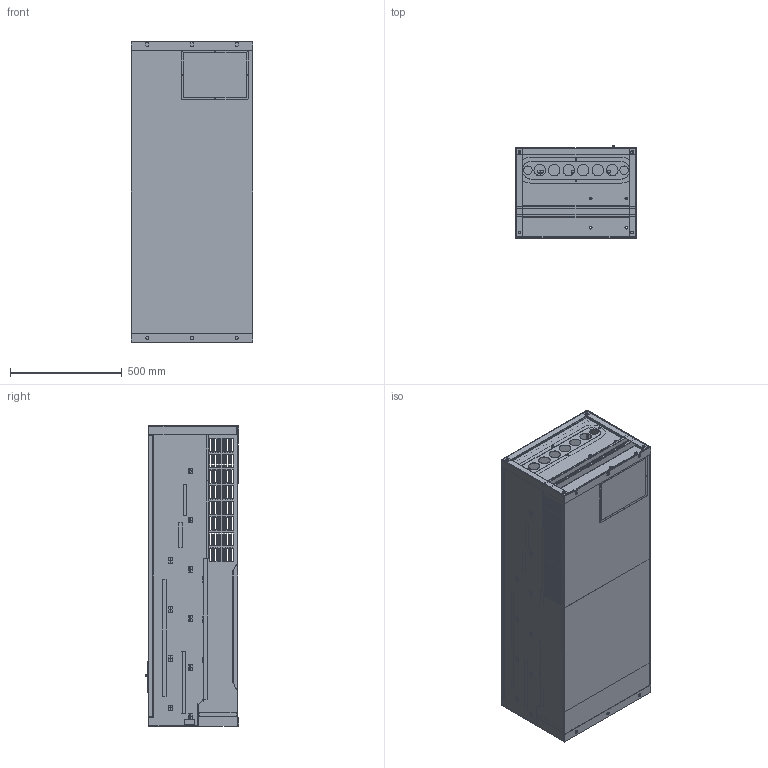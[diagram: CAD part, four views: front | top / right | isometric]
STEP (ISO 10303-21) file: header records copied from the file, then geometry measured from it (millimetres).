
FILE_DESCRIPTION (( 'STEP AP214' ), '1' );
FILE_NAME ('B-280K-H250K-380-D-0; B-315K-H280K-380-D-0; B-355K-H315K-380-D-0.STEP', '2022-06-04T08:25:30', ( '' ), ( '' ), 'SwSTEP 2.0', 'SolidWorks 2018', '' );
FILE_SCHEMA (( 'AUTOMOTIVE_DESIGN' ));
Length unit declared in the file: millimetre
Products named in the file (61): E102-400-328___ _____________ _____________^E102-400-328_ASM_E102-315-201_ASM_OptiCor B-280K-H250K-380-D-0-0; OptiCor B-315K-H280K-380-D-0-0; OpriCor B-355K-H315K-380-D-0-0(2)_B-280K-H250K-3~; CDI-9200-802_2___ _____________ _____________^CDI-9200_ASM_2_OptiCor B-280K-H250K-380-D-0-0; OptiCor B-315K-H280K-380-D-0-0; OpriCor B-355K-H315K-380-D-0-0(2)_B-280K-H250K-380-D-0; B-315K-H2~; E102-315-306___ _____________ _____________^E102-315-306_ASM_E102-315-201_ASM_OptiCor B-280K-H250K-380-D-0-0; OptiCor B-315K-H280K-380-D-0-0; OpriCor B-355K-H315K-380-D-0-0(2)_B-280K-H250K-3~; E180-018-305_ASM_4^E102-315-201_ASM_OptiCor B-280K-H250K-380-D-0-0; OptiCor B-315K-H280K-380-D-0-0; OpriCor B-355K-H315K-380-D-0-0(2)_B-280K-H250K-380-D-0; B-315K-H280K-380-D-0; B-355K-H315K~; CDI-9200-801_2___ _____________ _____________^CDI-9200_ASM_2_OptiCor B-280K-H250K-380-D-0-0; OptiCor B-315K-H280K-380-D-0-0; OpriCor B-355K-H315K-380-D-0-0(2)_B-280K-H250K-380-D-0; B-315K-H2~; E102-315-305_ASM^E102-315-201_ASM_OptiCor B-280K-H250K-380-D-0-0; OptiCor B-315K-H280K-380-D-0-0; OpriCor B-355K-H315K-380-D-0-0(2)_B-280K-H250K-380-D-0; B-315K-H280K-380-D-0; B-355K-H315K-3~; E180-018-305_4___ _____________ _____________^E180-018-305_ASM_4_E102-315-201_ASM_OptiCor B-280K-H250K-380-D-0-0; OptiCor B-315K-H280K-380-D-0-0; OpriCor B-355K-H315K-380-D-0-0(2)_B-280K-H25~; E102-315-322_ASM^OptiCor B-280K-H250K-380-D-0-0; OptiCor B-315K-H280K-380-D-0-0; OpriCor B-355K-H315K-380-D-0-0(2)_B-280K-H250K-380-D-0; B-315K-H280K-380-D-0; B-355K-H315K-380-D-0; BSO-M3-12_2___ _____________ _____________^E102-315-305_ASM_E102-315-201_ASM_OptiCor B-280K-H250K-380-D-0-0; OptiCor B-315K-H280K-380-D-0-0; OpriCor B-355K-H315K-380-D-0-0(2)_B-280K-H250K-38~; E102-315-315_ASM^E102-315-201_ASM_OptiCor B-280K-H250K-380-D-0-0; OptiCor B-315K-H280K-380-D-0-0; OpriCor B-355K-H315K-380-D-0-0(2)_B-280K-H250K-380-D-0; B-315K-H280K-380-D-0; B-355K-H315K-3~; E102-315-322___ _____________ _____________^E102-315-322_ASM_OptiCor B-280K-H250K-380-D-0-0; OptiCor B-315K-H280K-380-D-0-0; OpriCor B-355K-H315K-380-D-0-0(2)_B-280K-H250K-380-D-0; B-315K-H2~; E102-315-305___ _____________ _____________^E102-315-305_ASM_E102-315-201_ASM_OptiCor B-280K-H250K-380-D-0-0; OptiCor B-315K-H280K-380-D-0-0; OpriCor B-355K-H315K-380-D-0-0(2)_B-280K-H250K-3~; S-M6-1_1___ _____________ _____________^E102-315-315_ASM_E102-315-201_ASM_OptiCor B-280K-H250K-380-D-0-0; OptiCor B-315K-H280K-380-D-0-0; OpriCor B-355K-H315K-380-D-0-0(2)_B-280K-H250K-380-D-0~; E180-018-305_ASM_4^E102-315-322_ASM_OptiCor B-280K-H250K-380-D-0-0; OptiCor B-315K-H280K-380-D-0-0; OpriCor B-355K-H315K-380-D-0-0(2)_B-280K-H250K-380-D-0; B-315K-H280K-380-D-0; B-355K-H315K~; E180-018-305_ASM_4^E102-315-305_ASM_E102-315-201_ASM_OptiCor B-280K-H250K-380-D-0-0; OptiCor B-315K-H280K-380-D-0-0; OpriCor B-355K-H315K-380-D-0-0(2)_B-280K-H250K-380-D-0; B-315K-H280K-380-~; E102-315-315___ _____________ _____________^E102-315-315_ASM_E102-315-201_ASM_OptiCor B-280K-H250K-380-D-0-0; OptiCor B-315K-H280K-380-D-0-0; OpriCor B-355K-H315K-380-D-0-0(2)_B-280K-H250K-380~; E180-018-305_4___ _____________ _____________^E180-018-305_ASM_4_E102-315-322_ASM_OptiCor B-280K-H250K-380-D-0-0; OptiCor B-315K-H280K-380-D-0-0; OpriCor B-355K-H315K-380-D-0-0(2)_B-280K-H250~; E180-018-305_4___ _____________ _____________^E180-018-305_ASM_4_E102-315-305_ASM_E102-315-201_ASM_OptiCor B-280K-H250K-380-D-0-0; OptiCor B-315K-H280K-380-D-0-0; OpriCor B-355K-H315K-380-D-~; E102-315-314_ASM^E102-315-201_ASM_OptiCor B-280K-H250K-380-D-0-0; OptiCor B-315K-H280K-380-D-0-0; OpriCor B-355K-H315K-380-D-0-0(2)_B-280K-H250K-380-D-0; B-315K-H280K-380-D-0; B-355K-H315K-3~; E102-315-318_ASM^OptiCor B-280K-H250K-380-D-0-0; OptiCor B-315K-H280K-380-D-0-0; OpriCor B-355K-H315K-380-D-0-0(2)_B-280K-H250K-380-D-0; B-315K-H280K-380-D-0; B-355K-H315K-380-D-0; E102-315-303_ASM^E102-315-201_ASM_OptiCor B-280K-H250K-380-D-0-0; OptiCor B-315K-H280K-380-D-0-0; OpriCor B-355K-H315K-380-D-0-0(2)_B-280K-H250K-380-D-0; B-315K-H280K-380-D-0; B-355K-H315K-3~; S-M4-1_5___ _____________ _____________^E102-315-314_ASM_E102-315-201_ASM_OptiCor B-280K-H250K-380-D-0-0; OptiCor B-315K-H280K-380-D-0-0; OpriCor B-355K-H315K-380-D-0-0(2)_B-280K-H250K-380-D-~; E102-315-318___ _____________ _____________^E102-315-318_ASM_OptiCor B-280K-H250K-380-D-0-0; OptiCor B-315K-H280K-380-D-0-0; OpriCor B-355K-H315K-380-D-0-0(2)_B-280K-H250K-380-D-0; B-315K-H2~; S-M8-1_2___ _____________ _____________^E102-315-303_ASM_E102-315-201_ASM_OptiCor B-280K-H250K-380-D-0-0; OptiCor B-315K-H280K-380-D-0-0; OpriCor B-355K-H315K-380-D-0-0(2)_B-280K-H250K-380-D~; E102-315-314___ _____________ _____________^E102-315-314_ASM_E102-315-201_ASM_OptiCor B-280K-H250K-380-D-0-0; OptiCor B-315K-H280K-380-D-0-0; OpriCor B-355K-H315K-380-D-0-0(2)_B-280K-H250K-38~; E102-315-317_ASM^OptiCor B-280K-H250K-380-D-0-0; OptiCor B-315K-H280K-380-D-0-0; OpriCor B-355K-H315K-380-D-0-0(2)_B-280K-H250K-380-D-0; B-315K-H280K-380-D-0; B-355K-H315K-380-D-0; S-M4-1_5___ _____________ _____________^E102-315-303_ASM_E102-315-201_ASM_OptiCor B-280K-H250K-380-D-0-0; OptiCor B-315K-H280K-380-D-0-0; OpriCor B-355K-H315K-380-D-0-0(2)_B-280K-H250K-380-D~; E102-315-311_ASM^E102-315-201_ASM_OptiCor B-280K-H250K-380-D-0-0; OptiCor B-315K-H280K-380-D-0-0; OpriCor B-355K-H315K-380-D-0-0(2)_B-280K-H250K-380-D-0; B-315K-H280K-380-D-0; B-355K-H315K-3~; E102-315-317___ _____________ _____________^E102-315-317_ASM_OptiCor B-280K-H250K-380-D-0-0; OptiCor B-315K-H280K-380-D-0-0; OpriCor B-355K-H315K-380-D-0-0(2)_B-280K-H250K-380-D-0; B-315K-H2~; E102-315-303___ _____________ _____________^E102-315-303_ASM_E102-315-201_ASM_OptiCor B-280K-H250K-380-D-0-0; OptiCor B-315K-H280K-380-D-0-0; OpriCor B-355K-H315K-380-D-0-0(2)_B-280K-H250K-3~; S-M6-1_1___ _____________ _____________^E102-315-311_ASM_E102-315-201_ASM_OptiCor B-280K-H250K-380-D-0-0; OptiCor B-315K-H280K-380-D-0-0; OpriCor B-355K-H315K-380-D-0-0(2)_B-280K-H250K-380-D~; E102-315-201_ASM^OptiCor B-280K-H250K-380-D-0-0; OptiCor B-315K-H280K-380-D-0-0; OpriCor B-355K-H315K-380-D-0-0(2)_B-280K-H250K-380-D-0; B-315K-H280K-380-D-0; B-355K-H315K-380-D-0; E102-315-302_ASM^E102-315-201_ASM_OptiCor B-280K-H250K-380-D-0-0; OptiCor B-315K-H280K-380-D-0-0; OpriCor B-355K-H315K-380-D-0-0(2)_B-280K-H250K-380-D-0; B-315K-H280K-380-D-0; B-355K-H315K-3~; OptiCor B-280K-H250K-380-D-0-0; OptiCor B-315K-H280K-380-D-0-0; OpriCor B-355K-H315K-380-D-0-0(2)^B-280K-H250K-380-D-0; B-315K-H280K-380-D-0; B-355K-H315K-380-D-0; E102-315-311___ _____________ _____________^E102-315-311_ASM_E102-315-201_ASM_OptiCor B-280K-H250K-380-D-0-0; OptiCor B-315K-H280K-380-D-0-0; OpriCor B-355K-H315K-380-D-0-0(2)_B-280K-H250K-3~; E102-315-313___ _____________ _____________^E102-315-201_ASM_OptiCor B-280K-H250K-380-D-0-0; OptiCor B-315K-H280K-380-D-0-0; OpriCor B-355K-H315K-380-D-0-0(2)_B-280K-H250K-380-D-0; B-315K-H2~; E102-315-302___ _____________ _____________^E102-315-302_ASM_E102-315-201_ASM_OptiCor B-280K-H250K-380-D-0-0; OptiCor B-315K-H280K-380-D-0-0; OpriCor B-355K-H315K-380-D-0-0(2)_B-280K-H250K-3~; E102-315-319___ _____________ _____________^OptiCor B-280K-H250K-380-D-0-0; OptiCor B-315K-H280K-380-D-0-0; OpriCor B-355K-H315K-380-D-0-0(2)_B-280K-H250K-380-D-0; B-315K-H280K-380-D-0; B-355~; E102-315-310_ASM^E102-315-201_ASM_OptiCor B-280K-H250K-380-D-0-0; OptiCor B-315K-H280K-380-D-0-0; OpriCor B-355K-H315K-380-D-0-0(2)_B-280K-H250K-380-D-0; B-315K-H280K-380-D-0; B-355K-H315K-3~; E102-315-312___ _____________ _____________^E102-315-201_ASM_OptiCor B-280K-H250K-380-D-0-0; OptiCor B-315K-H280K-380-D-0-0; OpriCor B-355K-H315K-380-D-0-0(2)_B-280K-H250K-380-D-0; B-315K-H2~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
Assembly tree (111 placements, depth 6):
  B-280K-H250K-380-D-0; B-315K-H280K-380-D-0; B-355K-H315K-380-D-0
    OptiCor B-280K-H250K-380-D-0-0; OptiCor B-315K-H280K-380-D-0-0; OpriCor B-355K-H315K-380-D-0-0(2)^B-280K-H250K-380-D-0; B-315K-H280K-380-D-0; B-355K-H315K-380-D-0
      E102-315-201_ASM^OptiCor B-280K-H250K-380-D-0-0; OptiCor B-315K-H280K-380-D-0-0; OpriCor B-355K-H315K-380-D-0-0(2)_B-280K-H250K-380-D-0; B-315K-H280K-380-D-0; B-355K-H315K-380-D-0
        E102-315-302_ASM^E102-315-201_ASM_OptiCor B-280K-H250K-380-D-0-0; OptiCor B-315K-H280K-380-D-0-0; OpriCor B-355K-H315K-380-D-0-0(2)_B-280K-H250K-380-D-0; B-315K-H280K-380-D-0; B-355K-H315K-3~
          E102-315-302___ _____________ _____________^E102-315-302_ASM_E102-315-201_ASM_OptiCor B-280K-H250K-380-D-0-0; OptiCor B-315K-H280K-380-D-0-0; OpriCor B-355K-H315K-380-D-0-0(2)_B-280K-H250K-3~
        E102-315-303_ASM^E102-315-201_ASM_OptiCor B-280K-H250K-380-D-0-0; OptiCor B-315K-H280K-380-D-0-0; OpriCor B-355K-H315K-380-D-0-0(2)_B-280K-H250K-380-D-0; B-315K-H280K-380-D-0; B-355K-H315K-3~
          E102-315-303___ _____________ _____________^E102-315-303_ASM_E102-315-201_ASM_OptiCor B-280K-H250K-380-D-0-0; OptiCor B-315K-H280K-380-D-0-0; OpriCor B-355K-H315K-380-D-0-0(2)_B-280K-H250K-3~
          S-M4-1_5___ _____________ _____________^E102-315-303_ASM_E102-315-201_ASM_OptiCor B-280K-H250K-380-D-0-0; OptiCor B-315K-H280K-380-D-0-0; OpriCor B-355K-H315K-380-D-0-0(2)_B-280K-H250K-380-D~  x4
          S-M8-1_2___ _____________ _____________^E102-315-303_ASM_E102-315-201_ASM_OptiCor B-280K-H250K-380-D-0-0; OptiCor B-315K-H280K-380-D-0-0; OpriCor B-355K-H315K-380-D-0-0(2)_B-280K-H250K-380-D~  x4
        E102-315-305_ASM^E102-315-201_ASM_OptiCor B-280K-H250K-380-D-0-0; OptiCor B-315K-H280K-380-D-0-0; OpriCor B-355K-H315K-380-D-0-0(2)_B-280K-H250K-380-D-0; B-315K-H280K-380-D-0; B-355K-H315K-3~
          E180-018-305_ASM_4^E102-315-305_ASM_E102-315-201_ASM_OptiCor B-280K-H250K-380-D-0-0; OptiCor B-315K-H280K-380-D-0-0; OpriCor B-355K-H315K-380-D-0-0(2)_B-280K-H250K-380-D-0; B-315K-H280K-380-~  x6
            E180-018-305_4___ _____________ _____________^E180-018-305_ASM_4_E102-315-305_ASM_E102-315-201_ASM_OptiCor B-280K-H250K-380-D-0-0; OptiCor B-315K-H280K-380-D-0-0; OpriCor B-355K-H315K-380-D-~
          E102-315-305___ _____________ _____________^E102-315-305_ASM_E102-315-201_ASM_OptiCor B-280K-H250K-380-D-0-0; OptiCor B-315K-H280K-380-D-0-0; OpriCor B-355K-H315K-380-D-0-0(2)_B-280K-H250K-3~
          BSO-M3-12_2___ _____________ _____________^E102-315-305_ASM_E102-315-201_ASM_OptiCor B-280K-H250K-380-D-0-0; OptiCor B-315K-H280K-380-D-0-0; OpriCor B-355K-H315K-380-D-0-0(2)_B-280K-H250K-38~  x4
        E102-315-306_ASM^E102-315-201_ASM_OptiCor B-280K-H250K-380-D-0-0; OptiCor B-315K-H280K-380-D-0-0; OpriCor B-355K-H315K-380-D-0-0(2)_B-280K-H250K-380-D-0; B-315K-H280K-380-D-0; B-355K-H315K-3~  x2
          E102-315-306___ _____________ _____________^E102-315-306_ASM_E102-315-201_ASM_OptiCor B-280K-H250K-380-D-0-0; OptiCor B-315K-H280K-380-D-0-0; OpriCor B-355K-H315K-380-D-0-0(2)_B-280K-H250K-3~
          S-M6-1_1___ _____________ _____________^E102-315-306_ASM_E102-315-201_ASM_OptiCor B-280K-H250K-380-D-0-0; OptiCor B-315K-H280K-380-D-0-0; OpriCor B-355K-H315K-380-D-0-0(2)_B-280K-H250K-380-D~
        E102-315-309_ASM^E102-315-201_ASM_OptiCor B-280K-H250K-380-D-0-0; OptiCor B-315K-H280K-380-D-0-0; OpriCor B-355K-H315K-380-D-0-0(2)_B-280K-H250K-380-D-0; B-315K-H280K-380-D-0; B-355K-H315K-3~  x2
          E102-315-309___ _____________ _____________^E102-315-309_ASM_E102-315-201_ASM_OptiCor B-280K-H250K-380-D-0-0; OptiCor B-315K-H280K-380-D-0-0; OpriCor B-355K-H315K-380-D-0-0(2)_B-280K-H250K-3~
          S-M5-1_2___ _____________ _____________^E102-315-309_ASM_E102-315-201_ASM_OptiCor B-280K-H250K-380-D-0-0; OptiCor B-315K-H280K-380-D-0-0; OpriCor B-355K-H315K-380-D-0-0(2)_B-280K-H250K-380-D~
        E102-315-310_ASM^E102-315-201_ASM_OptiCor B-280K-H250K-380-D-0-0; OptiCor B-315K-H280K-380-D-0-0; OpriCor B-355K-H315K-380-D-0-0(2)_B-280K-H250K-380-D-0; B-315K-H280K-380-D-0; B-355K-H315K-3~  x2
          E102-315-310___ _____________ _____________^E102-315-310_ASM_E102-315-201_ASM_OptiCor B-280K-H250K-380-D-0-0; OptiCor B-315K-H280K-380-D-0-0; OpriCor B-355K-H315K-380-D-0-0(2)_B-280K-H250K-3~
          S-M6-1_1___ _____________ _____________^E102-315-310_ASM_E102-315-201_ASM_OptiCor B-280K-H250K-380-D-0-0; OptiCor B-315K-H280K-380-D-0-0; OpriCor B-355K-H315K-380-D-0-0(2)_B-280K-H250K-380-D~
        E102-315-311_ASM^E102-315-201_ASM_OptiCor B-280K-H250K-380-D-0-0; OptiCor B-315K-H280K-380-D-0-0; OpriCor B-355K-H315K-380-D-0-0(2)_B-280K-H250K-380-D-0; B-315K-H280K-380-D-0; B-355K-H315K-3~  x2
          E102-315-311___ _____________ _____________^E102-315-311_ASM_E102-315-201_ASM_OptiCor B-280K-H250K-380-D-0-0; OptiCor B-315K-H280K-380-D-0-0; OpriCor B-355K-H315K-380-D-0-0(2)_B-280K-H250K-3~
          S-M6-1_1___ _____________ _____________^E102-315-311_ASM_E102-315-201_ASM_OptiCor B-280K-H250K-380-D-0-0; OptiCor B-315K-H280K-380-D-0-0; OpriCor B-355K-H315K-380-D-0-0(2)_B-280K-H250K-380-D~
        E102-315-314_ASM^E102-315-201_ASM_OptiCor B-280K-H250K-380-D-0-0; OptiCor B-315K-H280K-380-D-0-0; OpriCor B-355K-H315K-380-D-0-0(2)_B-280K-H250K-380-D-0; B-315K-H280K-380-D-0; B-355K-H315K-3~
          E102-315-314___ _____________ _____________^E102-315-314_ASM_E102-315-201_ASM_OptiCor B-280K-H250K-380-D-0-0; OptiCor B-315K-H280K-380-D-0-0; OpriCor B-355K-H315K-380-D-0-0(2)_B-280K-H250K-38~
          S-M4-1_5___ _____________ _____________^E102-315-314_ASM_E102-315-201_ASM_OptiCor B-280K-H250K-380-D-0-0; OptiCor B-315K-H280K-380-D-0-0; OpriCor B-355K-H315K-380-D-0-0(2)_B-280K-H250K-380-D-~  x4
        E102-315-315_ASM^E102-315-201_ASM_OptiCor B-280K-H250K-380-D-0-0; OptiCor B-315K-H280K-380-D-0-0; OpriCor B-355K-H315K-380-D-0-0(2)_B-280K-H250K-380-D-0; B-315K-H280K-380-D-0; B-355K-H315K-3~  x2
          E102-315-315___ _____________ _____________^E102-315-315_ASM_E102-315-201_ASM_OptiCor B-280K-H250K-380-D-0-0; OptiCor B-315K-H280K-380-D-0-0; OpriCor B-355K-H315K-380-D-0-0(2)_B-280K-H250K-380~
          S-M6-1_1___ _____________ _____________^E102-315-315_ASM_E102-315-201_ASM_OptiCor B-280K-H250K-380-D-0-0; OptiCor B-315K-H280K-380-D-0-0; OpriCor B-355K-H315K-380-D-0-0(2)_B-280K-H250K-380-D-0~
        E180-018-305_ASM_4^E102-315-201_ASM_OptiCor B-280K-H250K-380-D-0-0; OptiCor B-315K-H280K-380-D-0-0; OpriCor B-355K-H315K-380-D-0-0(2)_B-280K-H250K-380-D-0; B-315K-H280K-380-D-0; B-355K-H315K~  x23
          E180-018-305_4___ _____________ _____________^E180-018-305_ASM_4_E102-315-201_ASM_OptiCor B-280K-H250K-380-D-0-0; OptiCor B-315K-H280K-380-D-0-0; OpriCor B-355K-H315K-380-D-0-0(2)_B-280K-H25~
        E102-400-328_ASM^E102-315-201_ASM_OptiCor B-280K-H250K-380-D-0-0; OptiCor B-315K-H280K-380-D-0-0; OpriCor B-355K-H315K-380-D-0-0(2)_B-280K-H250K-380-D-0; B-315K-H280K-380-D-0; B-355K-H315K-3~  x2
          E102-400-328___ _____________ _____________^E102-400-328_ASM_E102-315-201_ASM_OptiCor B-280K-H250K-380-D-0-0; OptiCor B-315K-H280K-380-D-0-0; OpriCor B-355K-H315K-380-D-0-0(2)_B-280K-H250K-3~
          M12_GB13681_2___ _____________ _____________^E102-400-328_ASM_E102-315-201_ASM_OptiCor B-280K-H250K-380-D-0-0; OptiCor B-315K-H280K-380-D-0-0; OpriCor B-355K-H315K-380-D-0-0(2)_B-280K-H250K-~
        E102-315-301___ _____________ _____________^E102-315-201_ASM_OptiCor B-280K-H250K-380-D-0-0; OptiCor B-315K-H280K-380-D-0-0; OpriCor B-355K-H315K-380-D-0-0(2)_B-280K-H250K-380-D-0; B-315K-H2~
        E102-315-304___ _____________ _____________^E102-315-201_ASM_OptiCor B-280K-H250K-380-D-0-0; OptiCor B-315K-H280K-380-D-0-0; OpriCor B-355K-H315K-380-D-0-0(2)_B-280K-H250K-380-D-0; B-315K-H2~
        E102-315-307___ _____________ _____________^E102-315-201_ASM_OptiCor B-280K-H250K-380-D-0-0; OptiCor B-315K-H280K-380-D-0-0; OpriCor B-355K-H315K-380-D-0-0(2)_B-280K-H250K-380-D-0; B-315K-H2~
        E102-315-308___ _____________ _____________^E102-315-201_ASM_OptiCor B-280K-H250K-380-D-0-0; OptiCor B-315K-H280K-380-D-0-0; OpriCor B-355K-H315K-380-D-0-0(2)_B-280K-H250K-380-D-0; B-315K-H2~
        E102-315-312___ _____________ _____________^E102-315-201_ASM_OptiCor B-280K-H250K-380-D-0-0; OptiCor B-315K-H280K-380-D-0-0; OpriCor B-355K-H315K-380-D-0-0(2)_B-280K-H250K-380-D-0; B-315K-H2~
        E102-315-313___ _____________ _____________^E102-315-201_ASM_OptiCor B-280K-H250K-380-D-0-0; OptiCor B-315K-H280K-380-D-0-0; OpriCor B-355K-H315K-380-D-0-0(2)_B-280K-H250K-380-D-0; B-315K-H2~
      E102-315-317_ASM^OptiCor B-280K-H250K-380-D-0-0; OptiCor B-315K-H280K-380-D-0-0; OpriCor B-355K-H315K-380-D-0-0(2)_B-280K-H250K-380-D-0; B-315K-H280K-380-D-0; B-355K-H315K-380-D-0
        E102-315-317___ _____________ _____________^E102-315-317_ASM_OptiCor B-280K-H250K-380-D-0-0; OptiCor B-315K-H280K-380-D-0-0; OpriCor B-355K-H315K-380-D-0-0(2)_B-280K-H250K-380-D-0; B-315K-H2~
      E102-315-318_ASM^OptiCor B-280K-H250K-380-D-0-0; OptiCor B-315K-H280K-380-D-0-0; OpriCor B-355K-H315K-380-D-0-0(2)_B-280K-H250K-380-D-0; B-315K-H280K-380-D-0; B-355K-H315K-380-D-0
        E102-315-318___ _____________ _____________^E102-315-318_ASM_OptiCor B-280K-H250K-380-D-0-0; OptiCor B-315K-H280K-380-D-0-0; OpriCor B-355K-H315K-380-D-0-0(2)_B-280K-H250K-380-D-0; B-315K-H2~
      E102-315-322_ASM^OptiCor B-280K-H250K-380-D-0-0; OptiCor B-315K-H280K-380-D-0-0; OpriCor B-355K-H315K-380-D-0-0(2)_B-280K-H250K-380-D-0; B-315K-H280K-380-D-0; B-355K-H315K-380-D-0
        E180-018-305_ASM_4^E102-315-322_ASM_OptiCor B-280K-H250K-380-D-0-0; OptiCor B-315K-H280K-380-D-0-0; OpriCor B-355K-H315K-380-D-0-0(2)_B-280K-H250K-380-D-0; B-315K-H280K-380-D-0; B-355K-H315K~
          E180-018-305_4___ _____________ _____________^E180-018-305_ASM_4_E102-315-322_ASM_OptiCor B-280K-H250K-380-D-0-0; OptiCor B-315K-H280K-380-D-0-0; OpriCor B-355K-H315K-380-D-0-0(2)_B-280K-H250~
        E102-315-322___ _____________ _____________^E102-315-322_ASM_OptiCor B-280K-H250K-380-D-0-0; OptiCor B-315K-H280K-380-D-0-0; OpriCor B-355K-H315K-380-D-0-0(2)_B-280K-H250K-380-D-0; B-315K-H2~
      CDI-9200_ASM_2^OptiCor B-280K-H250K-380-D-0-0; OptiCor B-315K-H280K-380-D-0-0; OpriCor B-355K-H315K-380-D-0-0(2)_B-280K-H250K-380-D-0; B-315K-H280K-380-D-0; B-355K-H315K-380-D-0
        CDI-9200-801_2___ _____________ _____________^CDI-9200_ASM_2_OptiCor B-280K-H250K-380-D-0-0; OptiCor B-315K-H280K-380-D-0-0; OpriCor B-355K-H315K-380-D-0-0(2)_B-280K-H250K-380-D-0; B-315K-H2~
        CDI-9200-802_2___ _____________ _____________^CDI-9200_ASM_2_OptiCor B-280K-H250K-380-D-0-0; OptiCor B-315K-H280K-380-D-0-0; OpriCor B-355K-H315K-380-D-0-0(2)_B-280K-H250K-380-D-0; B-315K-H2~
        CDI-9200-803_F1_3___ _____________ _____________^CDI-9200_ASM_2_OptiCor B-280K-H250K-380-D-0-0; OptiCor B-315K-H280K-380-D-0-0; OpriCor B-355K-H315K-380-D-0-0(2)_B-280K-H250K-380-D-0; B-315K~
        CDI-9200_3___ _____________ _____________^CDI-9200_ASM_2_OptiCor B-280K-H250K-380-D-0-0; OptiCor B-315K-H280K-380-D-0-0; OpriCor B-355K-H315K-380-D-0-0(2)_B-280K-H250K-380-D-0; B-315K-H280K-~
        CDI-9200_PD_2___ _____________ _____________^CDI-9200_ASM_2_OptiCor B-280K-H250K-380-D-0-0; OptiCor B-315K-H280K-380-D-0-0; OpriCor B-355K-H315K-380-D-0-0(2)_B-280K-H250K-380-D-0; B-315K-H28~
        CDI-9200-805_2___ _____________ _____________^CDI-9200_ASM_2_OptiCor B-280K-H250K-380-D-0-0; OptiCor B-315K-H280K-380-D-0-0; OpriCor B-355K-H315K-380-D-0-0(2)_B-280K-H250K-380-D-0; B-315K-H2~
        CDI-9200-TM___ _____________ _____________^CDI-9200_ASM_2_OptiCor B-280K-H250K-380-D-0-0; OptiCor B-315K-H280K-380-D-0-0; OpriCor B-355K-H315K-380-D-0-0(2)_B-280K-H250K-380-D-0; B-315K-H280K~
        CDI-D2R2-811_3___ _____________ _____________^CDI-9200_ASM_2_OptiCor B-280K-H250K-380-D-0-0; OptiCor B-315K-H280K-380-D-0-0; OpriCor B-355K-H315K-380-D-0-0(2)_B-280K-H250K-380-D-0; B-315K-H2~
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Bounding box: 545 x 416.9 x 1345 mm (x, y, z)
Volume: 6500576.2 mm3; surface area: 8160000.2 mm2
Topology: 109 solids, 117 shells, 4139 faces, 11185 edges, 7268 vertices
Faces by surface type: plane 2309, cylinder 1660, cone 104, bspline 59, torus 7
Entity records: 111183 total; most frequent: CARTESIAN_POINT 26457, ORIENTED_EDGE 17374, DIRECTION 16562, EDGE_CURVE 8711, LINE 5754, VECTOR 5754, VERTEX_POINT 5724, AXIS2_PLACEMENT_3D 5404
